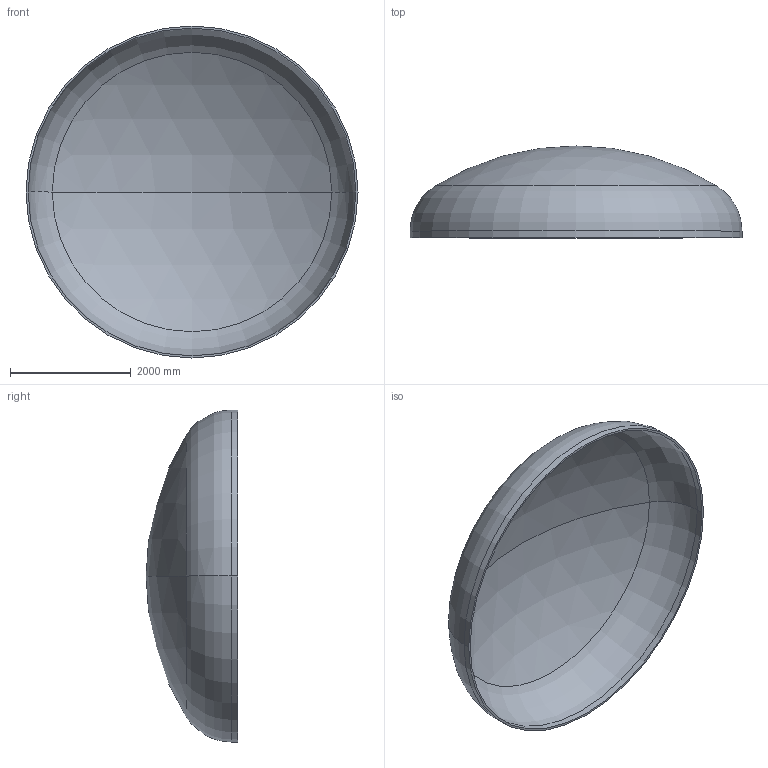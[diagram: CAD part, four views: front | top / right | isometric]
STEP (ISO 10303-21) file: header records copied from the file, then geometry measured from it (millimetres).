
FILE_DESCRIPTION (( 'STEP AP203' ), '1' );
FILE_NAME ('DIN 28013 Korbbogenform_-_Boden DIN 28013 - 5500 x 110 - I - s=35.step', '2016-07-04T10:33:59', ( '' ), ( '' ), 'SwSTEP 2.0', 'SolidWorks 2013', '' );
FILE_SCHEMA (( 'CONFIG_CONTROL_DESIGN' ));
Length unit declared in the file: millimetre
Products named in the file (1): DIN 28013 Korbbogenform_-_Boden DIN 28013 - 5500 x 110 - I - s=35
Bounding box: 5500 x 1521.57 x 5500 mm (x, y, z)
Volume: 1207617151.1 mm3; surface area: 69610141.3 mm2
Topology: 1 solids, 1 shells, 13 faces, 24 edges, 14 vertices
Faces by surface type: torus 4, cylinder 4, sphere 4, plane 1
Entity records: 407 total; most frequent: DIRECTION 72, CARTESIAN_POINT 52, ORIENTED_EDGE 48, AXIS2_PLACEMENT_3D 34, EDGE_CURVE 24, CIRCLE 20, EDGE_LOOP 14, VERTEX_POINT 14
